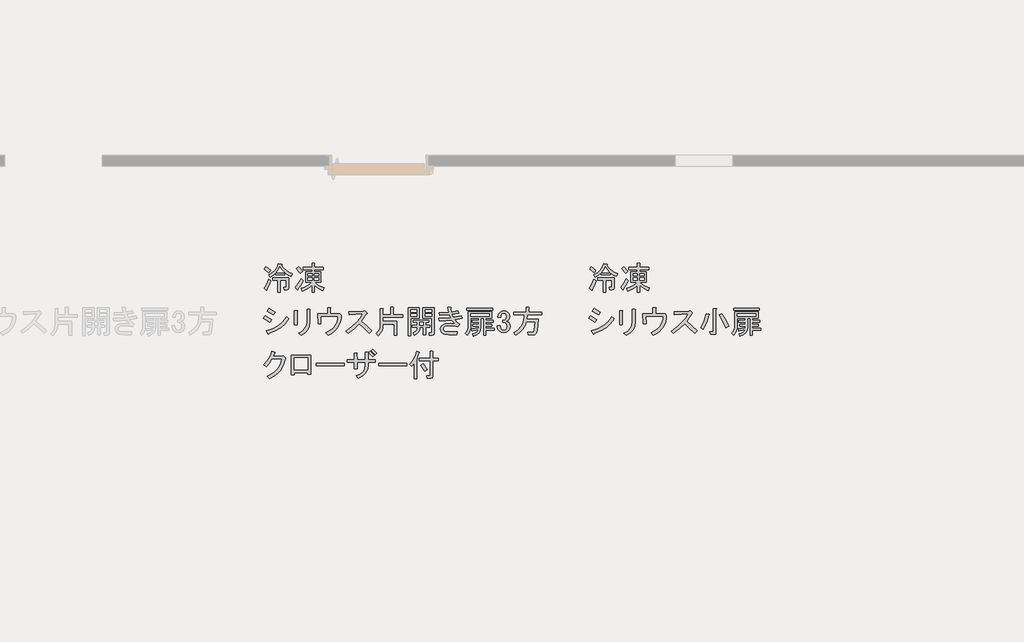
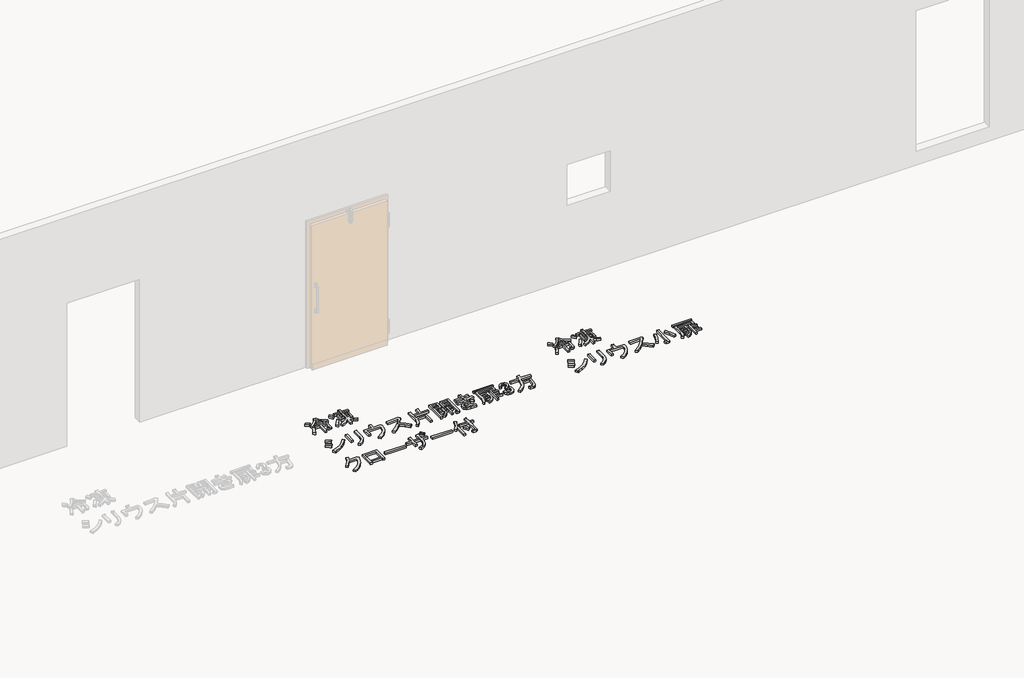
# One storey, part 97 of 117: 2 proxies.
"""IFC4 building model written with IfcOpenShell, lengths in millimetres."""

from ifc_helpers import new_model, si_unit, frame, origin, place, context, project, spatial, polyline, outline, extrude, element, save

model = new_model("IFC4")

# Units and contexts
model_context = context("Model", 3, world=origin())
ifc_project = project(units=[si_unit("LENGTHUNIT", "METRE", prefix="MILLI")], contexts=[model_context])

# Site, building, storey
site = spatial("IfcSite", under=ifc_project)
building = spatial("IfcBuilding", under=site)
storey = spatial("IfcBuildingStorey", under=building, Name="レベル 1", Elevation=500.0)

# Proxies
placement = place(None, origin())
element("IfcBuildingElementProxy", 1, Name="200㎜\u3000MS Pゴシック", ObjectType="200㎜\u3000MS Pゴシック", at=placement, inside=storey, context=model_context, shape_type="SweptSolid", body=[
    extrude(outline(polyline([(7383.6029468, 18948.5050774), (7417.2964447, 18967.9021871), (7443.6621457, 18991.6097656), (7462.7000496, 19019.6278129), (7474.4101566, 19051.9563291), (7505.4455321, 19043.9101206), (7506.882355, 19040.174381), (7501.997157, 19038.1628289), (7520.8195376, 19010.6476696), (7543.9523869, 18987.874026), (7571.3957051, 18969.8418981), (7603.149492, 18956.5512859), (7591.6549085, 18932.4126605), (7562.6310851, 18945.9187961), (7533.0325326, 18965.7469527), (7533.0325326, 18946.2061607), (7450.2715312, 18946.2061607), (7450.2715312, 18964.5974943), (7425.8455412, 18942.7577856), (7396.2469887, 18923.2169937), (7383.6029468, 18948.5050774)]), holes=[polyline([(7530.7336159, 18968.0458694), (7504.5834383, 18995.3455052), (7488.2036568, 19022.0704119), (7474.4101566, 18993.0465885), (7453.7199063, 18968.0458694), (7530.7336159, 18968.0458694)])]), frame((0.0, 0.0, 500.0), z_axis=(0.0, 0.0, 1.0), x_axis=(1.0, 0.0, 0.0)), (0.0, 0.0, 1.0), 25.0),
    extrude(outline(polyline([(7341.0729878, 18822.0646587), (7364.0621548, 18861.7209718), (7382.4534884, 18904.82566), (7403.1437388, 18892.1816181), (7385.6144989, 18848.2148362), (7367.5105299, 18812.8689919), (7366.9358007, 18806.5469709), (7362.9126965, 18805.9722417), (7341.0729878, 18822.0646587)])), frame((0.0, 0.0, 500.0), z_axis=(0.0, 0.0, 1.0), x_axis=(1.0, 0.0, 0.0)), (0.0, 0.0, 1.0), 25.0),
    extrude(outline(polyline([(7420.3856141, 18897.9289099), (7420.3856141, 18919.7686186), (7569.8151998, 18919.7686186), (7569.8151998, 18825.5130337), (7565.7920956, 18814.3058148), (7553.7227829, 18810.5700752), (7528.4346991, 18810.5700752), (7523.8368657, 18832.4097838), (7542.2281994, 18832.4097838), (7545.6765744, 18833.5592422), (7546.8260328, 18837.0076172), (7546.8260328, 18897.9289099), (7492.8014902, 18897.9289099), (7492.8014902, 18786.4314498), (7469.8123232, 18786.4314498), (7469.8123232, 18897.9289099), (7420.3856141, 18897.9289099)])), frame((0.0, 0.0, 500.0), z_axis=(0.0, 0.0, 1.0), x_axis=(1.0, 0.0, 0.0)), (0.0, 0.0, 1.0), 25.0),
    extrude(outline(polyline([(7358.314863, 19022.0704119), (7379.0051134, 19009.1390055), (7401.9942804, 18988.7361197), (7385.9018635, 18965.7469527), (7344.5213628, 19000.2307032), (7358.314863, 19022.0704119)])), frame((0.0, 0.0, 500.0), z_axis=(0.0, 0.0, 1.0), x_axis=(1.0, 0.0, 0.0)), (0.0, 0.0, 1.0), 25.0),
    extrude(outline(polyline([(7652.5762012, 18812.8689919), (7652.8635658, 18808.2711584), (7649.1278261, 18808.2711584), (7629.5870341, 18832.4097838), (7658.0361283, 18868.9050865), (7683.6115767, 18911.7224101), (7702.0029103, 18894.4805349), (7678.7263787, 18852.2379404), (7652.5762012, 18812.8689919)])), frame((0.0, 0.0, 500.0), z_axis=(0.0, 0.0, 1.0), x_axis=(1.0, 0.0, 0.0)), (0.0, 0.0, 1.0), 25.0),
    extrude(outline(polyline([(7659.4729513, 19022.0704119), (7696.2556185, 18981.8393696), (7675.5653682, 18962.2985776), (7639.9321593, 19004.8285366), (7659.4729513, 19022.0704119)])), frame((0.0, 0.0, 500.0), z_axis=(0.0, 0.0, 1.0), x_axis=(1.0, 0.0, 0.0)), (0.0, 0.0, 1.0), 25.0),
    extrude(outline(polyline([(7806.6036203, 18787.5809081), (7783.6144533, 18787.5809081), (7783.6144533, 18849.6516591), (7769.0307005, 18835.4989532), (7749.4180673, 18821.7772941), (7695.1061602, 18795.6271166), (7685.9104934, 18822.0646587), (7715.5090459, 18832.9126719), (7741.0844943, 18845.9159195), (7762.6368384, 18861.0744015), (7780.1660782, 18878.3881179), (7724.9920773, 18878.3881179), (7724.9920773, 18977.2415362), (7783.6144533, 18977.2415362), (7783.6144533, 18996.7823282), (7703.1523687, 18996.7823282), (7703.1523687, 19018.6220369), (7783.6144533, 19018.6220369), (7783.6144533, 19053.1057874), (7805.454162, 19053.1057874), (7810.33936, 19050.8068707), (7806.6036203, 19046.2090373), (7806.6036203, 19018.6220369), (7887.065705, 19018.6220369), (7887.065705, 18996.7823282), (7806.6036203, 18996.7823282), (7806.6036203, 18977.2415362), (7866.3754546, 18977.2415362), (7866.3754546, 18878.3881179), (7807.7530787, 18878.3881179), (7826.1444123, 18862.295701), (7846.8346627, 18848.5022008), (7895.1119134, 18827.8119504), (7884.7667883, 18802.5238667), (7841.6621001, 18823.5014816), (7806.6036203, 18849.6516591), (7806.6036203, 18787.5809081)]), holes=[polyline([(7806.6036203, 18937.0104939), (7846.8346627, 18937.0104939), (7846.8346627, 18958.8502026), (7806.6036203, 18958.8502026), (7806.6036203, 18937.0104939)]), polyline([(7806.6036203, 18896.7794516), (7846.8346627, 18896.7794516), (7846.8346627, 18918.6191602), (7806.6036203, 18918.6191602), (7806.6036203, 18896.7794516)]), polyline([(7744.5328693, 18896.7794516), (7783.6144533, 18896.7794516), (7783.6144533, 18918.6191602), (7744.5328693, 18918.6191602), (7744.5328693, 18896.7794516)]), polyline([(7744.5328693, 18937.0104939), (7783.6144533, 18937.0104939), (7783.6144533, 18958.8502026), (7744.5328693, 18958.8502026), (7744.5328693, 18937.0104939)])]), frame((0.0, 0.0, 500.0), z_axis=(0.0, 0.0, 1.0), x_axis=(1.0, 0.0, 0.0)), (0.0, 0.0, 1.0), 25.0),
    extrude(outline(polyline([(7360.6137797, 18431.2603255), (7419.379838, 18449.7235003), (7470.3870524, 18477.5260242), (7513.6354229, 18514.6678972), (7549.1249495, 18561.1491193), (7569.8151998, 18540.4588689), (7536.4809076, 18496.7794516), (7495.1004069, 18459.9967843), (7445.6736978, 18430.1108671), (7388.2007802, 18407.1217001), (7383.6029468, 18399.9375854), (7376.7061967, 18405.9722417), (7360.6137797, 18431.2603255)])), frame((0.0, 0.0, 500.0), z_axis=(0.0, 0.0, 1.0), x_axis=(1.0, 0.0, 0.0)), (0.0, 0.0, 1.0), 25.0),
    extrude(outline(polyline([(7352.5675713, 18570.3447861), (7411.1899472, 18533.5621188), (7392.7986136, 18509.4234934), (7335.325696, 18546.2061607), (7352.5675713, 18570.3447861)])), frame((0.0, 0.0, 500.0), z_axis=(0.0, 0.0, 1.0), x_axis=(1.0, 0.0, 0.0)), (0.0, 0.0, 1.0), 25.0),
    extrude(outline(polyline([(7384.7524051, 18638.1628289), (7443.3747811, 18601.3801616), (7427.2823642, 18577.2415362), (7369.8094466, 18614.0242035), (7384.7524051, 18638.1628289)])), frame((0.0, 0.0, 500.0), z_axis=(0.0, 0.0, 1.0), x_axis=(1.0, 0.0, 0.0)), (0.0, 0.0, 1.0), 25.0),
    extrude(outline(polyline([(7764.5334447, 18514.0213268), (7759.5045644, 18473.9339668), (7744.4179235, 18439.8812631), (7719.273522, 18411.8632158), (7684.07136, 18389.8798248), (7661.082193, 18409.4206168), (7694.344644, 18428.9614088), (7718.267746, 18453.1000342), (7732.8514988, 18481.836493), (7738.0959026, 18515.1707852), (7738.0959026, 18630.1166204), (7762.234528, 18630.1166204), (7768.5565489, 18626.6682453), (7764.5334447, 18620.9209536), (7764.5334447, 18514.0213268)])), frame((0.0, 0.0, 500.0), z_axis=(0.0, 0.0, 1.0), x_axis=(1.0, 0.0, 0.0)), (0.0, 0.0, 1.0), 25.0),
    extrude(outline(polyline([(7646.1392344, 18488.7332431), (7619.7016923, 18488.7332431), (7619.7016923, 18618.6220369), (7644.989776, 18618.6220369), (7651.0244324, 18615.748391), (7646.1392344, 18609.4263701), (7646.1392344, 18488.7332431)])), frame((0.0, 0.0, 500.0), z_axis=(0.0, 0.0, 1.0), x_axis=(1.0, 0.0, 0.0)), (0.0, 0.0, 1.0), 25.0),
    extrude(outline(polyline([(8053.047491, 18574.9426195), (8051.1616609, 18544.6436157), (8045.5041706, 18516.3920847), (8036.07502, 18490.1880263), (8022.8742093, 18466.0314406), (8005.9017383, 18443.9223276), (7985.1576071, 18423.8606873), (7960.6418157, 18405.8465197), (7932.3543641, 18389.8798248), (7910.5146554, 18411.7195335), (7959.3666353, 18440.1686277), (7978.6200627, 18456.7639327), (7994.4251151, 18474.9397429), (8006.7817923, 18494.6960583), (8015.6900946, 18516.032879), (8021.1500218, 18538.9502048), (8023.1615739, 18563.448036), (7863.3868629, 18563.448036), (7865.6857796, 18495.6299932), (7839.2482375, 18495.6299932), (7835.7998625, 18588.7361197), (7926.6070723, 18588.7361197), (7926.6070723, 18646.2090373), (7949.5962393, 18646.2090373), (7957.3550832, 18643.3353914), (7953.0446144, 18637.0133705), (7953.0446144, 18588.7361197), (8039.2539908, 18588.7361197), (8053.047491, 18574.9426195)])), frame((0.0, 0.0, 500.0), z_axis=(0.0, 0.0, 1.0), x_axis=(1.0, 0.0, 0.0)), (0.0, 0.0, 1.0), 25.0),
    extrude(outline(polyline([(8237.6964807, 18517.4697019), (8286.8358252, 18476.6639304), (8335.4004406, 18430.1108671), (8312.4112736, 18410.5700752), (8264.9961166, 18457.1231384), (8219.3051471, 18495.6299932), (8171.3152609, 18449.9390237), (8117.0033537, 18409.4206168), (8095.163645, 18428.9614088), (8150.6250105, 18468.6177219), (8195.1665217, 18508.2740351), (8228.7881785, 18547.9303482), (8251.4899809, 18587.5866614), (8126.1990205, 18579.5404529), (8122.7506455, 18607.1274534), (8256.0878143, 18612.8747451), (8269.8813145, 18616.3231202), (8288.2726482, 18597.9317865), (8291.1462941, 18591.322401), (8283.6748148, 18587.5866614), (8237.6964807, 18517.4697019)])), frame((0.0, 0.0, 500.0), z_axis=(0.0, 0.0, 1.0), x_axis=(1.0, 0.0, 0.0)), (0.0, 0.0, 1.0), 25.0),
    extrude(outline(polyline([(8435.8631006, 18637.0133705), (8441.8977569, 18633.5649954), (8437.0125589, 18627.8177037), (8437.0125589, 18579.5404529), (8508.2789768, 18579.5404529), (8508.2789768, 18648.507954), (8533.5670605, 18648.507954), (8539.6017169, 18645.059579), (8534.7165189, 18639.3122872), (8534.7165189, 18579.5404529), (8619.7764369, 18579.5404529), (8619.7764369, 18554.2523692), (8437.0125589, 18554.2523692), (8437.0125589, 18517.4697019), (8566.9013527, 18517.4697019), (8566.9013527, 18388.7303665), (8540.4638106, 18388.7303665), (8540.4638106, 18492.1816181), (8437.0125589, 18492.1816181), (8437.0125589, 18480.6870346), (8434.2825953, 18453.7466045), (8426.0927046, 18429.2487734), (8412.4428867, 18407.1935412), (8393.3331416, 18387.5809081), (8374.9418079, 18405.9722417), (8392.0400009, 18421.5617706), (8404.2529959, 18439.5938985), (8411.5807929, 18460.0686254), (8414.0233919, 18482.9859513), (8414.0233919, 18637.0133705), (8435.8631006, 18637.0133705)])), frame((0.0, 0.0, 500.0), z_axis=(0.0, 0.0, 1.0), x_axis=(1.0, 0.0, 0.0)), (0.0, 0.0, 1.0), 25.0),
    extrude(outline(polyline([(8773.8038561, 18548.5050774), (8693.3417714, 18548.5050774), (8693.3417714, 18387.5809081), (8670.3526044, 18387.5809081), (8670.3526044, 18643.9101206), (8773.8038561, 18643.9101206), (8773.8038561, 18548.5050774)]), holes=[polyline([(8750.814689, 18625.518787), (8693.3417714, 18625.518787), (8693.3417714, 18604.8285366), (8750.814689, 18604.8285366), (8750.814689, 18625.518787)]), polyline([(8693.3417714, 18566.896411), (8750.814689, 18566.896411), (8750.814689, 18586.437203), (8693.3417714, 18586.437203), (8693.3417714, 18566.896411)])]), frame((0.0, 0.0, 500.0), z_axis=(0.0, 0.0, 1.0), x_axis=(1.0, 0.0, 0.0)), (0.0, 0.0, 1.0), 25.0),
    extrude(outline(polyline([(8804.8392316, 18643.9101206), (8912.8883167, 18643.9101206), (8912.8883167, 18409.4206168), (8908.2904833, 18395.6271166), (8894.496983, 18391.0292832), (8866.9099826, 18391.0292832), (8863.4616075, 18412.8689919), (8885.3013162, 18412.8689919), (8888.7496913, 18414.0184502), (8889.8991496, 18417.4668253), (8889.8991496, 18548.5050774), (8847.3691906, 18548.5050774), (8804.8392316, 18548.5050774), (8804.8392316, 18643.9101206)]), holes=[polyline([(8889.8991496, 18604.8285366), (8889.8991496, 18625.518787), (8827.8283986, 18625.518787), (8827.8283986, 18604.8285366), (8889.8991496, 18604.8285366)]), polyline([(8827.8283986, 18566.896411), (8889.8991496, 18566.896411), (8889.8991496, 18586.437203), (8827.8283986, 18586.437203), (8827.8283986, 18566.896411)])]), frame((0.0, 0.0, 500.0), z_axis=(0.0, 0.0, 1.0), x_axis=(1.0, 0.0, 0.0)), (0.0, 0.0, 1.0), 25.0),
    extrude(outline(polyline([(8709.4341884, 18465.7440761), (8709.4341884, 18484.1354097), (8755.4125225, 18484.1354097), (8755.4125225, 18511.7224101), (8717.4803968, 18511.7224101), (8717.4803968, 18530.1137438), (8862.3121492, 18530.1137438), (8862.3121492, 18511.7224101), (8832.426232, 18511.7224101), (8832.426232, 18484.1354097), (8871.507816, 18484.1354097), (8871.507816, 18465.7440761), (8832.426232, 18465.7440761), (8832.426232, 18396.7765749), (8809.437065, 18396.7765749), (8809.437065, 18465.7440761), (8778.4016895, 18465.7440761), (8776.0309316, 18442.1083387), (8766.6197414, 18421.7772941), (8750.1681187, 18404.7509422), (8726.6760637, 18391.0292832), (8715.1814801, 18412.8689919), (8732.7825611, 18421.7772941), (8745.3547619, 18433.5592422), (8752.8980823, 18448.2148362), (8755.4125225, 18465.7440761), (8709.4341884, 18465.7440761)]), holes=[polyline([(8809.437065, 18484.1354097), (8809.437065, 18511.7224101), (8778.4016895, 18511.7224101), (8778.4016895, 18484.1354097), (8809.437065, 18484.1354097)])]), frame((0.0, 0.0, 500.0), z_axis=(0.0, 0.0, 1.0), x_axis=(1.0, 0.0, 0.0)), (0.0, 0.0, 1.0), 25.0),
    extrude(outline(polyline([(9073.812486, 18582.988828), (9087.6059862, 18554.2523692), (9160.0218624, 18570.3447861), (9170.3669875, 18546.2061607), (9100.2500281, 18533.5621188), (9120.0781846, 18511.147681), (9145.0789038, 18489.8827014), (9125.5381118, 18470.3419095), (9088.46808, 18477.2386596), (9060.0189857, 18479.5375763), (9022.0868601, 18476.0892012), (9009.1554537, 18471.7787324), (9000.2471514, 18465.7440761), (8994.2124951, 18457.410503), (8992.200943, 18448.5022008), (8993.9251305, 18438.1570756), (8999.0976931, 18430.1108671), (9016.626933, 18423.214117), (9050.8233189, 18420.9152003), (9120.9402784, 18420.9152003), (9116.342445, 18395.6271166), (9046.2254855, 18395.6271166), (9007.1439015, 18400.22495), (8992.7756721, 18405.9722417), (8981.8558178, 18414.0184502), (8971.5106926, 18429.8235025), (8968.0623176, 18449.6516591), (8971.223328, 18465.7440761), (8980.7063595, 18479.5375763), (8993.0630367, 18488.0866728), (9010.5922766, 18494.1931703), (9061.1684441, 18499.0783683), (9102.5489448, 18495.6299932), (9073.812486, 18528.9642854), (9017.2016621, 18523.7917228), (8955.4182757, 18522.0675353), (8951.9699007, 18546.2061607), (9008.8680891, 18546.7808899), (9062.3179024, 18550.8039941), (9049.6738606, 18579.5404529), (8961.1655675, 18576.0920778), (8958.8666508, 18599.0812449), (9043.9265688, 18601.3801616), (9034.730902, 18648.507954), (9060.0189857, 18648.507954), (9066.0536421, 18645.059579), (9061.1684441, 18639.3122872), (9066.9157359, 18604.8285366), (9127.8370285, 18616.3231202), (9135.883237, 18593.3339531), (9073.812486, 18582.988828)])), frame((0.0, 0.0, 500.0), z_axis=(0.0, 0.0, 1.0), x_axis=(1.0, 0.0, 0.0)), (0.0, 0.0, 1.0), 25.0),
    extrude(outline(polyline([(9452.0302621, 18641.6112039), (9452.0302621, 18623.2198703), (9212.9429249, 18623.2198703), (9212.9429249, 18641.6112039), (9452.0302621, 18641.6112039)])), frame((0.0, 0.0, 500.0), z_axis=(0.0, 0.0, 1.0), x_axis=(1.0, 0.0, 0.0)), (0.0, 0.0, 1.0), 25.0),
    extrude(outline(polyline([(9264.6685507, 18403.673325), (9284.4967073, 18410.3545517), (9300.3017597, 18418.9036482), (9312.0837078, 18429.3206145), (9319.8425516, 18441.6054507), (9264.6685507, 18433.5592422), (9262.6569986, 18428.6740442), (9258.921259, 18430.1108671), (9254.3234256, 18451.9505758), (9322.1414683, 18458.8473259), (9322.1414683, 18472.6408262), (9268.1169258, 18472.6408262), (9268.1169258, 18491.0321598), (9322.1414683, 18491.0321598), (9322.1414683, 18509.4234934), (9261.2201757, 18509.4234934), (9261.2201757, 18527.8148271), (9322.1414683, 18527.8148271), (9322.1414683, 18548.5050774), (9247.4266755, 18548.5050774), (9247.4266755, 18482.9859513), (9245.4151233, 18455.6144743), (9239.380467, 18430.9729609), (9229.3227064, 18409.0614111), (9215.2418416, 18389.8798248), (9197.9999663, 18407.1217001), (9209.566391, 18424.7946223), (9217.8281229, 18444.4790965), (9222.785162, 18466.1751229), (9224.4375084, 18489.8827014), (9224.4375084, 18605.977995), (9441.685137, 18605.977995), (9441.685137, 18548.5050774), (9385.3616777, 18548.5050774), (9385.3616777, 18527.8148271), (9455.4786372, 18527.8148271), (9455.4786372, 18509.4234934), (9385.3616777, 18509.4234934), (9385.3616777, 18491.0321598), (9442.8345953, 18491.0321598), (9442.8345953, 18472.6408262), (9385.3616777, 18472.6408262), (9385.3616777, 18453.1000342), (9462.3753873, 18453.1000342), (9462.3753873, 18434.7087005), (9385.3616777, 18434.7087005), (9385.3616777, 18388.7303665), (9365.8208857, 18388.7303665), (9365.8208857, 18548.5050774), (9341.6822603, 18548.5050774), (9341.6822603, 18462.295701), (9337.2999504, 18434.4931771), (9324.1530205, 18412.0068981), (9302.2414706, 18394.836864), (9271.5653009, 18382.9830747), (9264.6685507, 18403.673325)]), holes=[polyline([(9418.6959699, 18587.5866614), (9247.4266755, 18587.5866614), (9247.4266755, 18566.896411), (9418.6959699, 18566.896411), (9418.6959699, 18587.5866614)])]), frame((0.0, 0.0, 500.0), z_axis=(0.0, 0.0, 1.0), x_axis=(1.0, 0.0, 0.0)), (0.0, 0.0, 1.0), 25.0),
    extrude(outline(polyline([(9498.0085962, 18556.5512859), (9502.319065, 18580.6899113), (9515.2504715, 18600.2307032), (9531.9176176, 18611.4379222), (9552.0331388, 18615.1736618), (9574.7349412, 18611.4379222), (9592.2641811, 18600.2307032), (9602.6093062, 18584.1382863), (9606.0576813, 18563.448036), (9603.1840354, 18543.3325148), (9594.5630978, 18528.9642854), (9586.2295247, 18522.6422645), (9577.3212225, 18519.7686186), (9596.8620145, 18508.2740351), (9607.2071396, 18492.1816181), (9610.6555147, 18471.4913678), (9606.6324105, 18448.5022008), (9594.5630978, 18430.1108671), (9575.3096704, 18418.0415544), (9549.734222, 18414.0184502), (9527.6071488, 18418.0415544), (9509.5031797, 18430.1108671), (9497.433867, 18447.640107), (9493.4107628, 18468.0429928), (9493.4107628, 18477.2386596), (9519.8483049, 18477.2386596), (9519.8483049, 18469.1924511), (9522.4345862, 18455.3989509), (9530.1934301, 18443.9043674), (9539.1017323, 18437.869711), (9549.734222, 18435.8581589), (9563.2403577, 18438.1570756), (9573.8728474, 18445.0538257), (9580.7695976, 18456.8357738), (9583.0685143, 18473.7902845), (9580.7695976, 18488.1585139), (9573.8728474, 18499.0783683), (9564.1024514, 18505.9751184), (9553.1825971, 18508.2740351), (9543.9869303, 18508.2740351), (9543.9869303, 18527.8148271), (9550.8836804, 18527.8148271), (9560.941441, 18530.1137438), (9570.4244724, 18537.0104939), (9577.3212225, 18548.2177128), (9579.6201392, 18563.448036), (9577.3212225, 18576.9541716), (9570.4244724, 18587.5866614), (9562.3782639, 18592.759224), (9552.0331388, 18594.4834115), (9542.2627428, 18592.4718594), (9533.6418051, 18586.437203), (9526.4576904, 18574.3678903), (9523.29668, 18556.5512859), (9498.0085962, 18556.5512859)])), frame((0.0, 0.0, 500.0), z_axis=(0.0, 0.0, 1.0), x_axis=(1.0, 0.0, 0.0)), (0.0, 0.0, 1.0), 25.0),
    extrude(outline(polyline([(9763.5334755, 18538.1599522), (9870.4331023, 18538.1599522), (9858.9385187, 18434.7087005), (9855.130938, 18416.6047315), (9848.306029, 18403.673325), (9838.4637919, 18395.9144812), (9825.6042265, 18393.3281999), (9779.6258925, 18393.3281999), (9773.8786007, 18418.6162836), (9823.3053098, 18418.6162836), (9829.9146954, 18422.9267524), (9833.650435, 18435.8581589), (9842.8461018, 18516.3202435), (9760.0851005, 18516.3202435), (9748.3031524, 18480.8307169), (9727.9002666, 18447.9274716), (9698.8764432, 18417.6105076), (9661.2316822, 18389.8798248), (9645.1392653, 18414.0184502), (9684.7237373, 18440.2404689), (9713.8194018, 18472.9281908), (9732.4262589, 18512.0816159), (9740.5443085, 18557.7007442), (9741.6937668, 18578.3909946), (9645.1392653, 18578.3909946), (9645.1392653, 18603.6790783), (9757.7861838, 18603.6790783), (9757.7861838, 18649.6574124), (9783.0742675, 18649.6574124), (9789.1089239, 18646.2090373), (9784.2237259, 18640.4617456), (9784.2237259, 18603.6790783), (9900.3190194, 18603.6790783), (9900.3190194, 18578.3909946), (9768.1313089, 18578.3909946), (9763.5334755, 18538.1599522)])), frame((0.0, 0.0, 500.0), z_axis=(0.0, 0.0, 1.0), x_axis=(1.0, 0.0, 0.0)), (0.0, 0.0, 1.0), 25.0),
    extrude(outline(polyline([(7535.3314493, 18170.3447861), (7528.3089771, 18140.1355838), (7518.1614151, 18112.153457), (7504.8887632, 18086.3984058), (7488.4910214, 18062.8704302), (7468.9681897, 18041.5695301), (7446.3202681, 18022.4957056), (7420.5472566, 18005.6489566), (7391.6491553, 17991.0292832), (7370.9589049, 18012.8689919), (7421.6787547, 18040.0249454), (7442.8359725, 18056.7280121), (7461.1913856, 18075.514472), (7476.7449939, 18096.3843252), (7489.4967975, 18119.3375717), (7499.4467963, 18144.3742114), (7506.5949905, 18171.4942444), (7414.6383223, 18171.4942444), (7387.626051, 18132.1252959), (7359.4643214, 18101.377285), (7336.4751544, 18116.3202435), (7363.7029491, 18144.4819732), (7385.6144989, 18174.9426195), (7402.2098039, 18207.7021825), (7413.4888639, 18242.7606623), (7439.926406, 18233.5649954), (7442.8000519, 18230.1166204), (7437.6274893, 18226.6682453), (7424.9834475, 18196.7823282), (7507.7444488, 18196.7823282), (7518.089574, 18202.5296199), (7538.7798243, 18181.8393696), (7541.9408348, 18174.9426195), (7535.3314493, 18170.3447861)])), frame((0.0, 0.0, 500.0), z_axis=(0.0, 0.0, 1.0), x_axis=(1.0, 0.0, 0.0)), (0.0, 0.0, 1.0), 25.0),
    extrude(outline(polyline([(7773.0394365, 18032.4097838), (7746.6018944, 18032.4097838), (7746.6018944, 18045.0538257), (7619.0120173, 18045.0538257), (7619.0120173, 18026.6624921), (7592.5744752, 18026.6624921), (7592.5744752, 18205.977995), (7773.0394365, 18205.977995), (7773.0394365, 18032.4097838)]), holes=[polyline([(7619.0120173, 18180.6899113), (7619.0120173, 18070.3419095), (7746.6018944, 18070.3419095), (7746.6018944, 18180.6899113), (7619.0120173, 18180.6899113)])]), frame((0.0, 0.0, 500.0), z_axis=(0.0, 0.0, 1.0), x_axis=(1.0, 0.0, 0.0)), (0.0, 0.0, 1.0), 25.0),
    extrude(outline(polyline([(7823.7995173, 18107.1245767), (7823.7995173, 18132.4126605), (8080.1287298, 18132.4126605), (8080.1287298, 18107.1245767), (7823.7995173, 18107.1245767)])), frame((0.0, 0.0, 500.0), z_axis=(0.0, 0.0, 1.0), x_axis=(1.0, 0.0, 0.0)), (0.0, 0.0, 1.0), 25.0),
    extrude(outline(polyline([(8300.5488634, 18165.7469527), (8368.3669062, 18165.7469527), (8368.3669062, 18140.4588689), (8301.6983217, 18140.4588689), (8301.6983217, 18118.6191602), (8296.0228711, 18078.6036414), (8288.9285579, 18060.9127589), (8278.9965193, 18044.7664611), (8250.6192662, 18017.1076195), (8210.8911119, 17995.6271166), (8192.4997783, 18016.3173669), (8228.7077164, 18032.9126719), (8254.5705293, 18055.1115863), (8270.0882171, 18082.9141102), (8275.2607796, 18116.3202435), (8275.2607796, 18140.4588689), (8199.3965284, 18140.4588689), (8200.5459868, 18081.836493), (8175.257903, 18081.836493), (8174.1084447, 18140.4588689), (8109.7387769, 18140.4588689), (8109.7387769, 18165.7469527), (8174.1084447, 18165.7469527), (8172.9589863, 18226.6682453), (8197.0976117, 18226.6682453), (8203.132268, 18223.2198703), (8198.24707, 18215.1736618), (8199.3965284, 18165.7469527), (8274.1113213, 18165.7469527), (8274.1113213, 18235.8639122), (8299.399405, 18235.8639122), (8305.4340614, 18232.4155371), (8300.5488634, 18224.3693286), (8300.5488634, 18165.7469527)])), frame((0.0, 0.0, 500.0), z_axis=(0.0, 0.0, 1.0), x_axis=(1.0, 0.0, 0.0)), (0.0, 0.0, 1.0), 25.0),
    extrude(outline(polyline([(8321.2391137, 18241.6112039), (8358.021781, 18203.6790783), (8343.0788224, 18191.0350364), (8308.5950718, 18227.8177037), (8321.2391137, 18241.6112039)])), frame((0.0, 0.0, 500.0), z_axis=(0.0, 0.0, 1.0), x_axis=(1.0, 0.0, 0.0)), (0.0, 0.0, 1.0), 25.0),
    extrude(outline(polyline([(8343.0788224, 18261.1519959), (8379.8614897, 18223.2198703), (8364.9185311, 18210.5758284), (8330.4347805, 18247.3584957), (8343.0788224, 18261.1519959)])), frame((0.0, 0.0, 500.0), z_axis=(0.0, 0.0, 1.0), x_axis=(1.0, 0.0, 0.0)), (0.0, 0.0, 1.0), 25.0),
    extrude(outline(polyline([(8400.55174, 18107.1245767), (8400.55174, 18132.4126605), (8656.8809525, 18132.4126605), (8656.8809525, 18107.1245767), (8400.55174, 18107.1245767)])), frame((0.0, 0.0, 500.0), z_axis=(0.0, 0.0, 1.0), x_axis=(1.0, 0.0, 0.0)), (0.0, 0.0, 1.0), 25.0),
    extrude(outline(polyline([(8769.252001, 18227.8177037), (8760.6310634, 18199.0812449), (8748.5617507, 18170.3447861), (8754.8837716, 18166.896411), (8750.8606674, 18161.1491193), (8750.8606674, 17991.0292832), (8727.8715003, 17991.0292832), (8727.8715003, 18133.5621188), (8702.5834166, 18102.5267433), (8684.192083, 18123.2169937), (8706.7502031, 18148.4332363), (8724.9978545, 18176.9541716), (8738.935037, 18208.7797997), (8748.5617507, 18243.9101206), (8772.7003761, 18234.7144538), (8774.137199, 18230.6913496), (8769.252001, 18227.8177037)])), frame((0.0, 0.0, 500.0), z_axis=(0.0, 0.0, 1.0), x_axis=(1.0, 0.0, 0.0)), (0.0, 0.0, 1.0), 25.0),
    extrude(outline(polyline([(8876.1516278, 18177.2415362), (8876.1516278, 18242.7606623), (8897.9913364, 18242.7606623), (8902.8765344, 18240.4617456), (8899.1407948, 18235.8639122), (8899.1407948, 18177.2415362), (8946.2685872, 18177.2415362), (8946.2685872, 18155.4018275), (8899.1407948, 18155.4018275), (8899.1407948, 18012.8689919), (8894.5429614, 17999.0754916), (8880.7494612, 17994.4776582), (8846.2657106, 17994.4776582), (8840.5184188, 18016.3173669), (8871.5537943, 18016.3173669), (8875.0021694, 18017.4668253), (8876.1516278, 18020.9152003), (8876.1516278, 18155.4018275), (8772.7003761, 18155.4018275), (8772.7003761, 18177.2415362), (8876.1516278, 18177.2415362)])), frame((0.0, 0.0, 500.0), z_axis=(0.0, 0.0, 1.0), x_axis=(1.0, 0.0, 0.0)), (0.0, 0.0, 1.0), 25.0),
    extrude(outline(polyline([(8809.4830433, 18125.5159104), (8845.1162522, 18071.4913678), (8822.1270852, 18056.5484092), (8805.4599391, 18087.0090556), (8787.6433346, 18111.7224101), (8809.4830433, 18125.5159104)])), frame((0.0, 0.0, 500.0), z_axis=(0.0, 0.0, 1.0), x_axis=(1.0, 0.0, 0.0)), (0.0, 0.0, 1.0), 25.0),
])
element("IfcBuildingElementProxy", 2, Name="200㎜\u3000MS Pゴシック", ObjectType="200㎜\u3000MS Pゴシック", at=placement, inside=storey, context=model_context, shape_type="SweptSolid", body=[
    extrude(outline(polyline([(10383.6029468, 18948.5050774), (10417.2964447, 18967.9021871), (10443.6621457, 18991.6097656), (10462.7000496, 19019.6278129), (10474.4101566, 19051.9563291), (10505.4455321, 19043.9101206), (10506.882355, 19040.174381), (10501.997157, 19038.1628289), (10520.8195376, 19010.6476696), (10543.9523869, 18987.874026), (10571.3957051, 18969.8418981), (10603.149492, 18956.5512859), (10591.6549085, 18932.4126605), (10562.6310851, 18945.9187961), (10533.0325326, 18965.7469527), (10533.0325326, 18946.2061607), (10450.2715312, 18946.2061607), (10450.2715312, 18964.5974943), (10425.8455412, 18942.7577856), (10396.2469887, 18923.2169937), (10383.6029468, 18948.5050774)]), holes=[polyline([(10530.7336159, 18968.0458694), (10504.5834383, 18995.3455052), (10488.2036568, 19022.0704119), (10474.4101566, 18993.0465885), (10453.7199063, 18968.0458694), (10530.7336159, 18968.0458694)])]), frame((0.0, 0.0, 500.0), z_axis=(0.0, 0.0, 1.0), x_axis=(1.0, 0.0, 0.0)), (0.0, 0.0, 1.0), 25.0),
    extrude(outline(polyline([(10341.0729878, 18822.0646587), (10364.0621548, 18861.7209718), (10382.4534884, 18904.82566), (10403.1437388, 18892.1816181), (10385.6144989, 18848.2148362), (10367.5105299, 18812.8689919), (10366.9358007, 18806.5469709), (10362.9126965, 18805.9722417), (10341.0729878, 18822.0646587)])), frame((0.0, 0.0, 500.0), z_axis=(0.0, 0.0, 1.0), x_axis=(1.0, 0.0, 0.0)), (0.0, 0.0, 1.0), 25.0),
    extrude(outline(polyline([(10420.3856141, 18897.9289099), (10420.3856141, 18919.7686186), (10569.8151998, 18919.7686186), (10569.8151998, 18825.5130337), (10565.7920956, 18814.3058148), (10553.7227829, 18810.5700752), (10528.4346991, 18810.5700752), (10523.8368657, 18832.4097838), (10542.2281994, 18832.4097838), (10545.6765744, 18833.5592422), (10546.8260328, 18837.0076172), (10546.8260328, 18897.9289099), (10492.8014902, 18897.9289099), (10492.8014902, 18786.4314498), (10469.8123232, 18786.4314498), (10469.8123232, 18897.9289099), (10420.3856141, 18897.9289099)])), frame((0.0, 0.0, 500.0), z_axis=(0.0, 0.0, 1.0), x_axis=(1.0, 0.0, 0.0)), (0.0, 0.0, 1.0), 25.0),
    extrude(outline(polyline([(10358.314863, 19022.0704119), (10379.0051134, 19009.1390055), (10401.9942804, 18988.7361197), (10385.9018635, 18965.7469527), (10344.5213628, 19000.2307032), (10358.314863, 19022.0704119)])), frame((0.0, 0.0, 500.0), z_axis=(0.0, 0.0, 1.0), x_axis=(1.0, 0.0, 0.0)), (0.0, 0.0, 1.0), 25.0),
    extrude(outline(polyline([(10652.5762012, 18812.8689919), (10652.8635658, 18808.2711584), (10649.1278261, 18808.2711584), (10629.5870341, 18832.4097838), (10658.0361283, 18868.9050865), (10683.6115767, 18911.7224101), (10702.0029103, 18894.4805349), (10678.7263787, 18852.2379404), (10652.5762012, 18812.8689919)])), frame((0.0, 0.0, 500.0), z_axis=(0.0, 0.0, 1.0), x_axis=(1.0, 0.0, 0.0)), (0.0, 0.0, 1.0), 25.0),
    extrude(outline(polyline([(10659.4729513, 19022.0704119), (10696.2556185, 18981.8393696), (10675.5653682, 18962.2985776), (10639.9321593, 19004.8285366), (10659.4729513, 19022.0704119)])), frame((0.0, 0.0, 500.0), z_axis=(0.0, 0.0, 1.0), x_axis=(1.0, 0.0, 0.0)), (0.0, 0.0, 1.0), 25.0),
    extrude(outline(polyline([(10806.6036203, 18787.5809081), (10783.6144533, 18787.5809081), (10783.6144533, 18849.6516591), (10769.0307005, 18835.4989532), (10749.4180673, 18821.7772941), (10695.1061602, 18795.6271166), (10685.9104934, 18822.0646587), (10715.5090459, 18832.9126719), (10741.0844943, 18845.9159195), (10762.6368384, 18861.0744015), (10780.1660782, 18878.3881179), (10724.9920773, 18878.3881179), (10724.9920773, 18977.2415362), (10783.6144533, 18977.2415362), (10783.6144533, 18996.7823282), (10703.1523687, 18996.7823282), (10703.1523687, 19018.6220369), (10783.6144533, 19018.6220369), (10783.6144533, 19053.1057874), (10805.454162, 19053.1057874), (10810.33936, 19050.8068707), (10806.6036203, 19046.2090373), (10806.6036203, 19018.6220369), (10887.065705, 19018.6220369), (10887.065705, 18996.7823282), (10806.6036203, 18996.7823282), (10806.6036203, 18977.2415362), (10866.3754546, 18977.2415362), (10866.3754546, 18878.3881179), (10807.7530787, 18878.3881179), (10826.1444123, 18862.295701), (10846.8346627, 18848.5022008), (10895.1119134, 18827.8119504), (10884.7667883, 18802.5238667), (10841.6621001, 18823.5014816), (10806.6036203, 18849.6516591), (10806.6036203, 18787.5809081)]), holes=[polyline([(10806.6036203, 18937.0104939), (10846.8346627, 18937.0104939), (10846.8346627, 18958.8502026), (10806.6036203, 18958.8502026), (10806.6036203, 18937.0104939)]), polyline([(10806.6036203, 18896.7794516), (10846.8346627, 18896.7794516), (10846.8346627, 18918.6191602), (10806.6036203, 18918.6191602), (10806.6036203, 18896.7794516)]), polyline([(10744.5328693, 18896.7794516), (10783.6144533, 18896.7794516), (10783.6144533, 18918.6191602), (10744.5328693, 18918.6191602), (10744.5328693, 18896.7794516)]), polyline([(10744.5328693, 18937.0104939), (10783.6144533, 18937.0104939), (10783.6144533, 18958.8502026), (10744.5328693, 18958.8502026), (10744.5328693, 18937.0104939)])]), frame((0.0, 0.0, 500.0), z_axis=(0.0, 0.0, 1.0), x_axis=(1.0, 0.0, 0.0)), (0.0, 0.0, 1.0), 25.0),
    extrude(outline(polyline([(10360.6137797, 18431.2603255), (10419.379838, 18449.7235003), (10470.3870524, 18477.5260242), (10513.6354229, 18514.6678972), (10549.1249495, 18561.1491193), (10569.8151998, 18540.4588689), (10536.4809076, 18496.7794516), (10495.1004069, 18459.9967843), (10445.6736978, 18430.1108671), (10388.2007802, 18407.1217001), (10383.6029468, 18399.9375854), (10376.7061967, 18405.9722417), (10360.6137797, 18431.2603255)])), frame((0.0, 0.0, 500.0), z_axis=(0.0, 0.0, 1.0), x_axis=(1.0, 0.0, 0.0)), (0.0, 0.0, 1.0), 25.0),
    extrude(outline(polyline([(10352.5675713, 18570.3447861), (10411.1899472, 18533.5621188), (10392.7986136, 18509.4234934), (10335.325696, 18546.2061607), (10352.5675713, 18570.3447861)])), frame((0.0, 0.0, 500.0), z_axis=(0.0, 0.0, 1.0), x_axis=(1.0, 0.0, 0.0)), (0.0, 0.0, 1.0), 25.0),
    extrude(outline(polyline([(10384.7524051, 18638.1628289), (10443.3747811, 18601.3801616), (10427.2823642, 18577.2415362), (10369.8094466, 18614.0242035), (10384.7524051, 18638.1628289)])), frame((0.0, 0.0, 500.0), z_axis=(0.0, 0.0, 1.0), x_axis=(1.0, 0.0, 0.0)), (0.0, 0.0, 1.0), 25.0),
    extrude(outline(polyline([(10764.5334447, 18514.0213268), (10759.5045644, 18473.9339668), (10744.4179235, 18439.8812631), (10719.273522, 18411.8632158), (10684.07136, 18389.8798248), (10661.082193, 18409.4206168), (10694.344644, 18428.9614088), (10718.267746, 18453.1000342), (10732.8514988, 18481.836493), (10738.0959026, 18515.1707852), (10738.0959026, 18630.1166204), (10762.234528, 18630.1166204), (10768.5565489, 18626.6682453), (10764.5334447, 18620.9209536), (10764.5334447, 18514.0213268)])), frame((0.0, 0.0, 500.0), z_axis=(0.0, 0.0, 1.0), x_axis=(1.0, 0.0, 0.0)), (0.0, 0.0, 1.0), 25.0),
    extrude(outline(polyline([(10646.1392344, 18488.7332431), (10619.7016923, 18488.7332431), (10619.7016923, 18618.6220369), (10644.989776, 18618.6220369), (10651.0244324, 18615.748391), (10646.1392344, 18609.4263701), (10646.1392344, 18488.7332431)])), frame((0.0, 0.0, 500.0), z_axis=(0.0, 0.0, 1.0), x_axis=(1.0, 0.0, 0.0)), (0.0, 0.0, 1.0), 25.0),
    extrude(outline(polyline([(11053.047491, 18574.9426195), (11051.1616609, 18544.6436157), (11045.5041706, 18516.3920847), (11036.07502, 18490.1880263), (11022.8742093, 18466.0314406), (11005.9017383, 18443.9223276), (10985.1576071, 18423.8606873), (10960.6418157, 18405.8465197), (10932.3543641, 18389.8798248), (10910.5146554, 18411.7195335), (10959.3666353, 18440.1686277), (10978.6200627, 18456.7639327), (10994.4251151, 18474.9397429), (11006.7817923, 18494.6960583), (11015.6900946, 18516.032879), (11021.1500218, 18538.9502048), (11023.1615739, 18563.448036), (10863.3868629, 18563.448036), (10865.6857796, 18495.6299932), (10839.2482375, 18495.6299932), (10835.7998625, 18588.7361197), (10926.6070723, 18588.7361197), (10926.6070723, 18646.2090373), (10949.5962393, 18646.2090373), (10957.3550832, 18643.3353914), (10953.0446144, 18637.0133705), (10953.0446144, 18588.7361197), (11039.2539908, 18588.7361197), (11053.047491, 18574.9426195)])), frame((0.0, 0.0, 500.0), z_axis=(0.0, 0.0, 1.0), x_axis=(1.0, 0.0, 0.0)), (0.0, 0.0, 1.0), 25.0),
    extrude(outline(polyline([(11237.6964807, 18517.4697019), (11286.8358252, 18476.6639304), (11335.4004406, 18430.1108671), (11312.4112736, 18410.5700752), (11264.9961166, 18457.1231384), (11219.3051471, 18495.6299932), (11171.3152609, 18449.9390237), (11117.0033537, 18409.4206168), (11095.163645, 18428.9614088), (11150.6250105, 18468.6177219), (11195.1665217, 18508.2740351), (11228.7881785, 18547.9303482), (11251.4899809, 18587.5866614), (11126.1990205, 18579.5404529), (11122.7506455, 18607.1274534), (11256.0878143, 18612.8747451), (11269.8813145, 18616.3231202), (11288.2726482, 18597.9317865), (11291.1462941, 18591.322401), (11283.6748148, 18587.5866614), (11237.6964807, 18517.4697019)])), frame((0.0, 0.0, 500.0), z_axis=(0.0, 0.0, 1.0), x_axis=(1.0, 0.0, 0.0)), (0.0, 0.0, 1.0), 25.0),
    extrude(outline(polyline([(11366.8955995, 18459.9967843), (11385.1432508, 18490.5292718), (11399.6551625, 18522.3548999), (11410.4313345, 18555.4736687), (11417.471767, 18589.8855781), (11445.0587674, 18582.988828), (11449.3692362, 18579.5404529), (11443.909309, 18576.0920778), (11424.0811525, 18508.5613997), (11392.1836832, 18443.9043674), (11366.8955995, 18459.9967843)])), frame((0.0, 0.0, 500.0), z_axis=(0.0, 0.0, 1.0), x_axis=(1.0, 0.0, 0.0)), (0.0, 0.0, 1.0), 25.0),
    extrude(outline(polyline([(11563.4529777, 18589.8855781), (11599.9482803, 18532.9873896), (11626.673187, 18472.6408262), (11597.9367282, 18459.9967843), (11573.5107382, 18521.7801707), (11541.613269, 18578.3909946), (11563.4529777, 18589.8855781)])), frame((0.0, 0.0, 500.0), z_axis=(0.0, 0.0, 1.0), x_axis=(1.0, 0.0, 0.0)), (0.0, 0.0, 1.0), 25.0),
    extrude(outline(polyline([(11478.3930596, 18423.214117), (11481.8414347, 18424.3635754), (11482.990893, 18427.8119504), (11482.990893, 18637.0133705), (11508.2789768, 18637.0133705), (11514.3136331, 18633.5649954), (11509.4284351, 18627.8177037), (11509.4284351, 18412.8689919), (11505.6926955, 18401.6617729), (11494.4854765, 18397.9260333), (11462.3006427, 18397.9260333), (11453.1049759, 18423.214117), (11478.3930596, 18423.214117)])), frame((0.0, 0.0, 500.0), z_axis=(0.0, 0.0, 1.0), x_axis=(1.0, 0.0, 0.0)), (0.0, 0.0, 1.0), 25.0),
    extrude(outline(polyline([(11910.5894, 18641.6112039), (11910.5894, 18623.2198703), (11671.5020628, 18623.2198703), (11671.5020628, 18641.6112039), (11910.5894, 18641.6112039)])), frame((0.0, 0.0, 500.0), z_axis=(0.0, 0.0, 1.0), x_axis=(1.0, 0.0, 0.0)), (0.0, 0.0, 1.0), 25.0),
    extrude(outline(polyline([(11723.2276886, 18403.673325), (11743.0558452, 18410.3545517), (11758.8608975, 18418.9036482), (11770.6428456, 18429.3206145), (11778.4016895, 18441.6054507), (11723.2276886, 18433.5592422), (11721.2161365, 18428.6740442), (11717.4803968, 18430.1108671), (11712.8825634, 18451.9505758), (11780.7006062, 18458.8473259), (11780.7006062, 18472.6408262), (11726.6760637, 18472.6408262), (11726.6760637, 18491.0321598), (11780.7006062, 18491.0321598), (11780.7006062, 18509.4234934), (11719.7793135, 18509.4234934), (11719.7793135, 18527.8148271), (11780.7006062, 18527.8148271), (11780.7006062, 18548.5050774), (11705.9858133, 18548.5050774), (11705.9858133, 18482.9859513), (11703.9742612, 18455.6144743), (11697.9396048, 18430.9729609), (11687.8818443, 18409.0614111), (11673.8009795, 18389.8798248), (11656.5591042, 18407.1217001), (11668.1255288, 18424.7946223), (11676.3872607, 18444.4790965), (11681.3442999, 18466.1751229), (11682.9966463, 18489.8827014), (11682.9966463, 18605.977995), (11900.2442748, 18605.977995), (11900.2442748, 18548.5050774), (11843.9208156, 18548.5050774), (11843.9208156, 18527.8148271), (11914.037775, 18527.8148271), (11914.037775, 18509.4234934), (11843.9208156, 18509.4234934), (11843.9208156, 18491.0321598), (11901.3937332, 18491.0321598), (11901.3937332, 18472.6408262), (11843.9208156, 18472.6408262), (11843.9208156, 18453.1000342), (11920.9345251, 18453.1000342), (11920.9345251, 18434.7087005), (11843.9208156, 18434.7087005), (11843.9208156, 18388.7303665), (11824.3800236, 18388.7303665), (11824.3800236, 18548.5050774), (11800.2413982, 18548.5050774), (11800.2413982, 18462.295701), (11795.8590882, 18434.4931771), (11782.7121583, 18412.0068981), (11760.8006085, 18394.836864), (11730.1244387, 18382.9830747), (11723.2276886, 18403.673325)]), holes=[polyline([(11877.2551078, 18587.5866614), (11705.9858133, 18587.5866614), (11705.9858133, 18566.896411), (11877.2551078, 18566.896411), (11877.2551078, 18587.5866614)])]), frame((0.0, 0.0, 500.0), z_axis=(0.0, 0.0, 1.0), x_axis=(1.0, 0.0, 0.0)), (0.0, 0.0, 1.0), 25.0),
])

save(model, "model.ifc")
